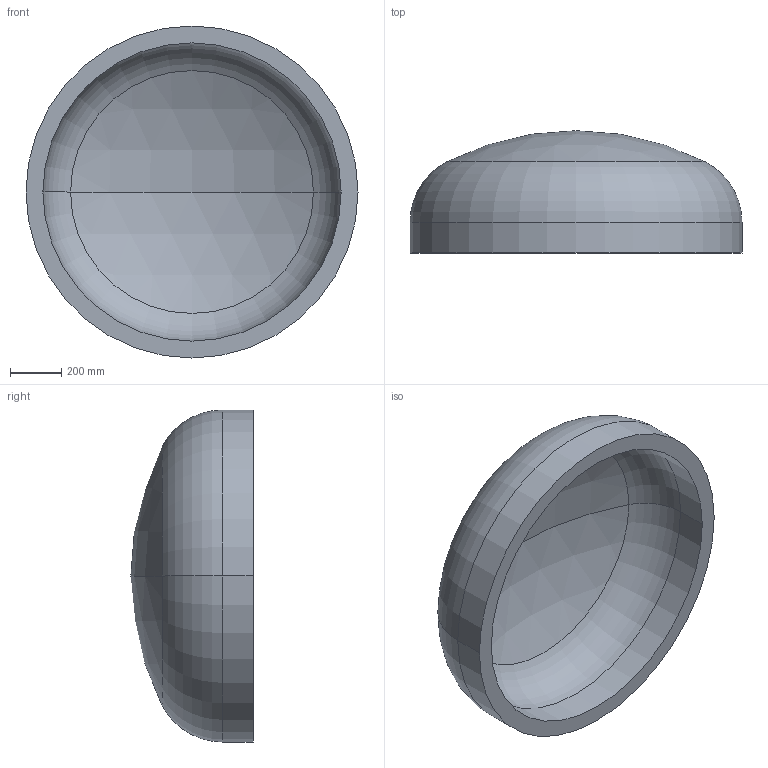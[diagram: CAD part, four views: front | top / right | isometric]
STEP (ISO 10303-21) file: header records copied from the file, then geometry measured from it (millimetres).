
FILE_DESCRIPTION (( 'STEP AP203' ), '1' );
FILE_NAME ('DIN 28013 Korbbogenform_-_Boden DIN 28013 - 1300 x 120 - I - s=66.step', '2016-07-01T09:57:00', ( '' ), ( '' ), 'SwSTEP 2.0', 'SolidWorks 2013', '' );
FILE_SCHEMA (( 'CONFIG_CONTROL_DESIGN' ));
Length unit declared in the file: millimetre
Products named in the file (1): DIN 28013 Korbbogenform_-_Boden DIN 28013 - 1300 x 120 - I - s=66
Bounding box: 1300 x 478.91 x 1300 mm (x, y, z)
Volume: 144351455 mm3; surface area: 4639272.5 mm2
Topology: 1 solids, 1 shells, 13 faces, 24 edges, 14 vertices
Faces by surface type: torus 4, cylinder 4, sphere 4, plane 1
Entity records: 407 total; most frequent: DIRECTION 72, CARTESIAN_POINT 52, ORIENTED_EDGE 48, AXIS2_PLACEMENT_3D 34, EDGE_CURVE 24, CIRCLE 20, VERTEX_POINT 14, EDGE_LOOP 14
